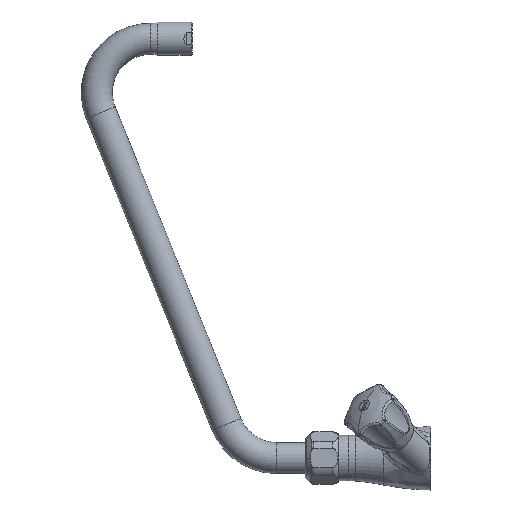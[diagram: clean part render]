
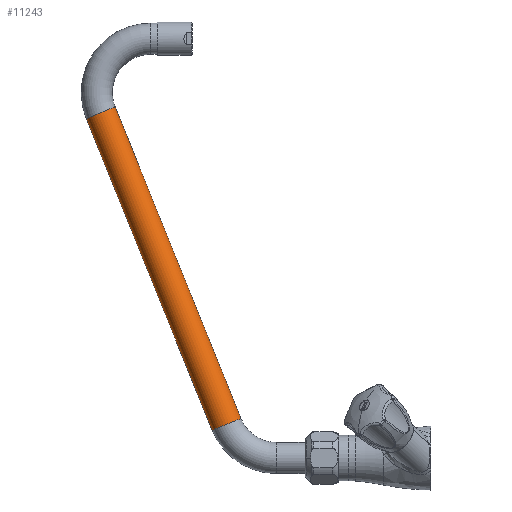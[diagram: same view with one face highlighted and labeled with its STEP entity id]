
A CAD part, left-side view. The second image highlights one B-rep face of the part: STEP entity #11243.
In plain terms, the highlighted cylindrical face has radius 13 mm (diameter 26 mm), a partial arc.
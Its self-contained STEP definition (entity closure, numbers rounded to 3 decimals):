
#3483=CARTESIAN_POINT('',(0.,185.723,
28.143));
#3484=DIRECTION('',(0.,0.375,0.927));
#3485=DIRECTION('',(0.,0.927,-0.375));
#3486=AXIS2_PLACEMENT_3D('',#3483,#3484,#3485);
#3488=DIRECTION('',(0.,0.375,0.927));
#3489=VECTOR('',#3488,281.2);
#3490=CARTESIAN_POINT('',(0.,197.777,
23.273));
#3491=LINE('',#3490,#3489);
#3497=DIRECTION('',(0.,0.375,0.927));
#3498=VECTOR('',#3497,281.2);
#3499=CARTESIAN_POINT('',(0.,173.67,
33.013));
#3500=LINE('',#3499,#3498);
#3511=CARTESIAN_POINT('',(0.,291.063,
288.867));
#3512=DIRECTION('',(0.,0.375,0.927));
#3513=DIRECTION('',(0.,0.927,-0.375));
#3514=AXIS2_PLACEMENT_3D('',#3511,#3512,#3513);
#6102=CARTESIAN_POINT('',(0.,197.777,
23.273));
#6103=CARTESIAN_POINT('',(0.,173.67,
33.013));
#6104=VERTEX_POINT('',#6102);
#6105=VERTEX_POINT('',#6103);
#6106=CARTESIAN_POINT('',(0.,303.116,
283.997));
#6107=CARTESIAN_POINT('',(0.,279.009,
293.737));
#6108=VERTEX_POINT('',#6106);
#6109=VERTEX_POINT('',#6107);
#11229=CARTESIAN_POINT('',(0.,185.723,
28.143));
#11230=DIRECTION('',(0.,0.375,0.927));
#11231=DIRECTION('',(0.,0.927,-0.375));
#11232=AXIS2_PLACEMENT_3D('',#11229,#11230,#11231);
#11233=CYLINDRICAL_SURFACE('',#11232,13.);
#11234=ORIENTED_EDGE('',*,*,#11223,.F.);
#11236=ORIENTED_EDGE('',*,*,#11235,.T.);
#11238=ORIENTED_EDGE('',*,*,#11237,.T.);
#11240=ORIENTED_EDGE('',*,*,#11239,.F.);
#11241=EDGE_LOOP('',(#11234,#11236,#11238,#11240));
#11242=FACE_OUTER_BOUND('',#11241,.F.);
#11243=ADVANCED_FACE('',(#11242),#11233,.T.);
#3487=CIRCLE('',#3486,13.);
#3515=CIRCLE('',#3514,13.);
#11223=EDGE_CURVE('',#6104,#6105,#3487,.T.);
#11235=EDGE_CURVE('',#6104,#6108,#3491,.T.);
#11237=EDGE_CURVE('',#6108,#6109,#3515,.T.);
#11239=EDGE_CURVE('',#6105,#6109,#3500,.T.);
